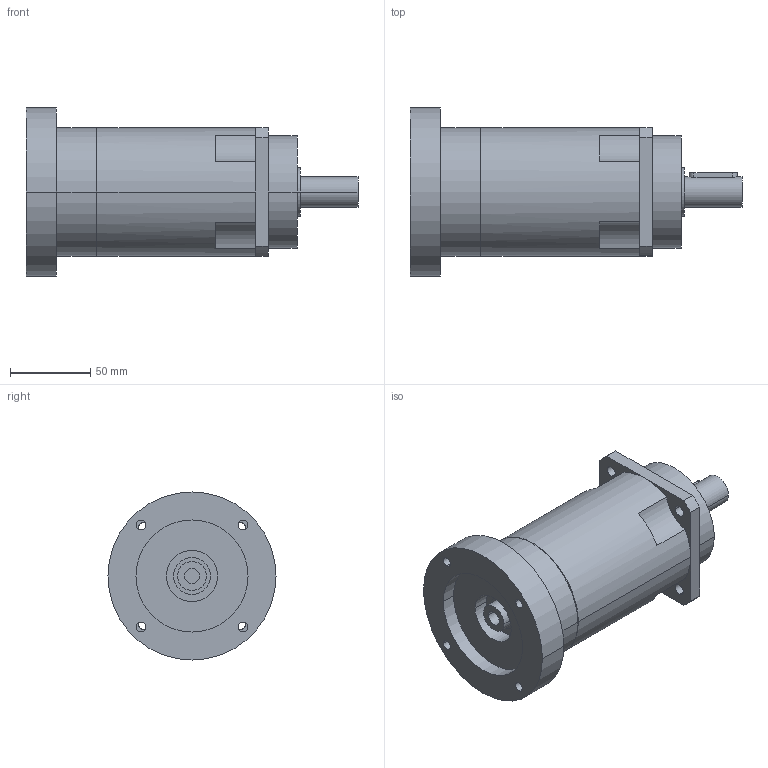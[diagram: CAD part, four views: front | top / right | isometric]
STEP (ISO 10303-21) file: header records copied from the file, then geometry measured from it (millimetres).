
FILE_DESCRIPTION(('CoCreate Modeling STEP Export'),'2;1');
FILE_NAME('GPR100_ig-48-64-80-100-120-144-180-216_19_B5_9.52_P14.stp','2014-08-26T11:57:46',(''),(''),'CoCreate Modeling STEP processor for AP214 (Solid Model)','CoCreate Modeling 16.00C 25-Feb-2009 (C) Parametric Technology GmbH','');
FILE_SCHEMA(('AUTOMOTIVE_DESIGN { 1 0 10303 214 1 1 1 1 }'));
Length unit declared in the file: millimetre
Products named in the file (2): GPR100_ig-48-64-80-100-120-144-180-216_19_B5_9.52_P14
Assembly tree (1 placements, depth 2):
  GPR100_ig-48-64-80-100-120-144-180-216_19_B5_9.52_P14
    GPR100_ig-48-64-80-100-120-144-180-216_19_B5_9.52_P14
Bounding box: 207.4 x 105 x 105 mm (x, y, z)
Volume: 866496.3 mm3; surface area: 73783.6 mm2
Topology: 1 solids, 1 shells, 95 faces, 260 edges, 180 vertices
Faces by surface type: cylinder 58, plane 31, cone 6
Entity records: 2690 total; most frequent: ORIENTED_EDGE 516, CARTESIAN_POINT 482, DIRECTION 386, EDGE_CURVE 258, VERTEX_POINT 180, AXIS2_PLACEMENT_3D 148, EDGE_LOOP 126, FACE_OUTER_BOUND 95
